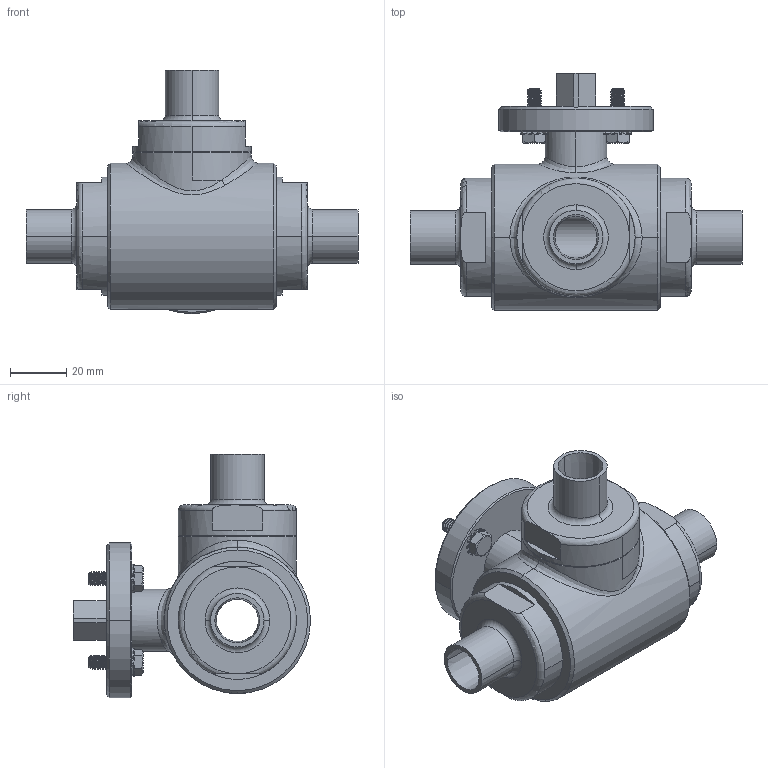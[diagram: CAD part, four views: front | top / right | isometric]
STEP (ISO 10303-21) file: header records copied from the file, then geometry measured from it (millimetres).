
FILE_DESCRIPTION((''),'2;1');
FILE_NAME('PARTE_VUOTA','2022-05-26T14:55:05',('alfio.taboni'),('CDM Tecnoconsulting'),'CREO PARAMETRIC BY PTC INC, 2020053','CREO PARAMETRIC BY PTC INC, 2020053','');
FILE_SCHEMA(('CONFIG_CONTROL_DESIGN','SHAPE_APPEARANCE_LAYERS_GROUPS'));
Products named in the file (1): PARTE_VUOTA
Bounding box: 118 x 84.25 x 86.5 mm (x, y, z)
Volume: 179089.1 mm3; surface area: 57881.5 mm2
Topology: 1 solids, 19 shells, 1255 faces, 3497 edges, 2212 vertices
Faces by surface type: plane 427, cylinder 414, cone 206, torus 84, bspline 66, extrusion 55, sphere 3
Entity records: 69962 total; most frequent: CARTESIAN_POINT 28472, ORIENTED_EDGE 6970, DIRECTION 5763, PRESENTATION_STYLE_ASSIGNMENT 3500, STYLED_ITEM 3486, CURVE_STYLE 3485, EDGE_CURVE 3485, VERTEX_POINT 2212
